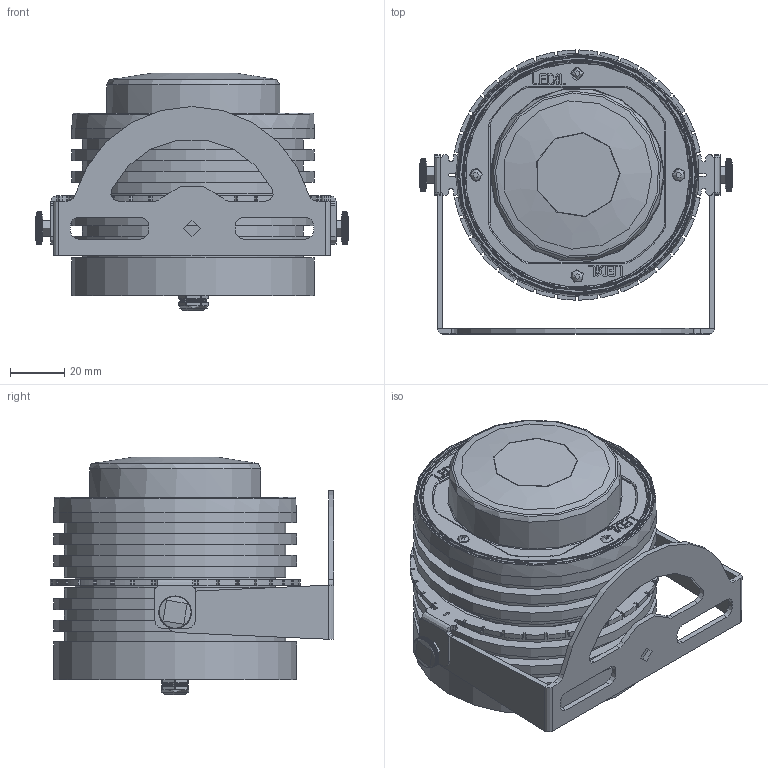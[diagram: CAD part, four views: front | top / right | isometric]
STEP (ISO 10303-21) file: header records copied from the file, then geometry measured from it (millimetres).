
FILE_DESCRIPTION(/* description */ (''),/* implementation_level */ '2;1');
FILE_NAME(/* name */ 'C:/Elena/ILM/02 3D/Pegaso/Pubblico/Quasimodo bracket.step',/* time_stamp */ '2020-05-27T15:09:26+02:00',/* author */ (''),/* organization */ (''),/* preprocessor_version */ 'ST-DEVELOPER v18.1',/* originating_system */ 'Autodesk Translation Framework v9.3.0.1241',/* authorisation */ '');
FILE_SCHEMA (('AUTOMOTIVE_DESIGN { 1 0 10303 214 3 1 1 }'));
Length unit declared in the file: millimetre
Products named in the file (1): Pubblico
Bounding box: 115.5 x 104.99 x 87.88 mm (x, y, z)
Volume: 311655.3 mm3; surface area: 106768.1 mm2
Topology: 9 solids, 10 shells, 2461 faces, 6906 edges, 4519 vertices
Faces by surface type: plane 1565, cylinder 501, bspline 173, torus 147, cone 75
Full cylindrical faces by diameter (mm): 3.5 x2, 4 x2, 4.2 x4, 4.249 x4, 5 x1, 6 x3, 10 x1, 10.127 x1, 36.34 x1, 55 x1, 59.62 x1, 63.939 x1, 66.62 x1, 74 x1, 82 x6, 86 x1, 86.2 x1, 90 x6
Entity records: 83358 total; most frequent: CARTESIAN_POINT 24866, ORIENTED_EDGE 13812, DIRECTION 10398, EDGE_CURVE 6906, VERTEX_POINT 4519, AXIS2_PLACEMENT_3D 3889, LINE 2620, VECTOR 2620
